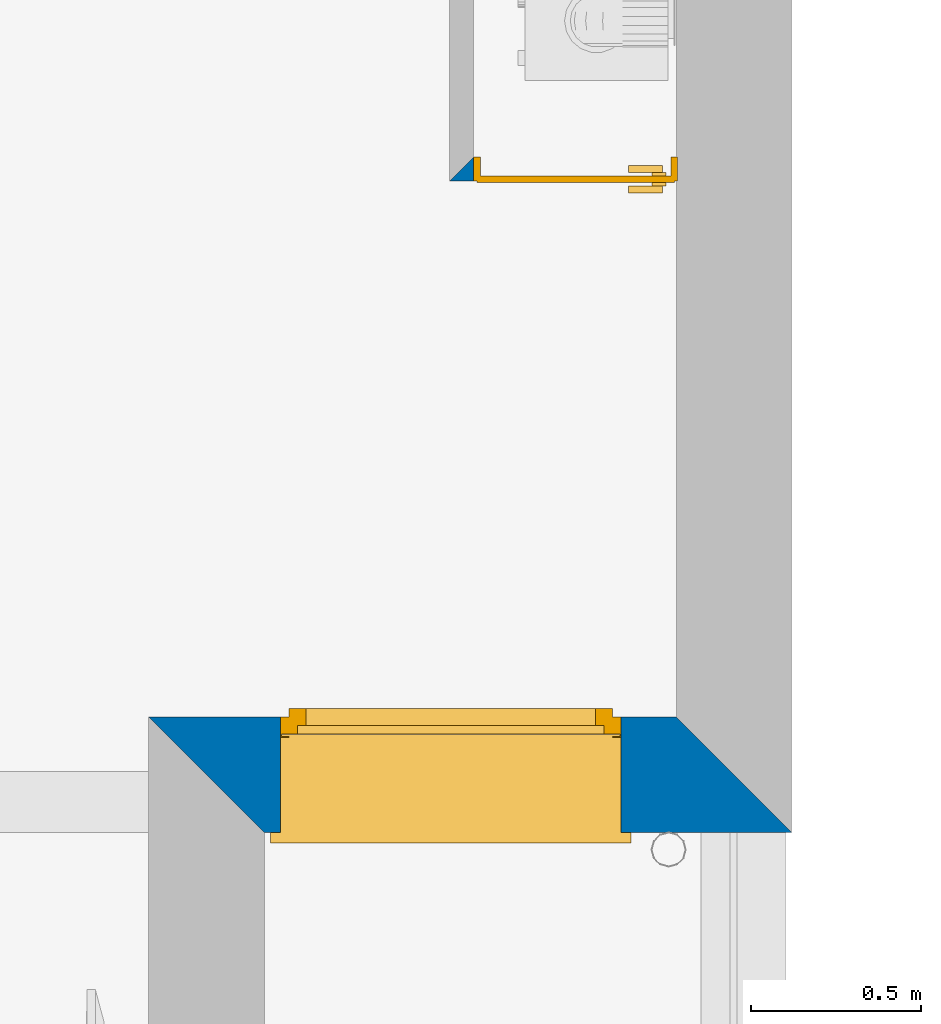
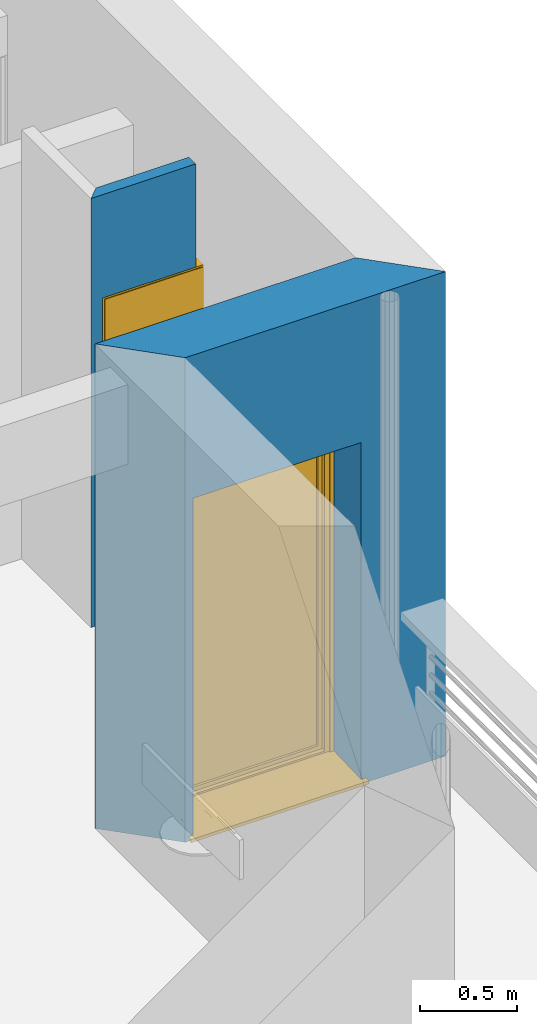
# One storey, part 16 of 165: 2 walls, 1 door, 1 window, 2 openings.
"""IFC2X3 building model written with IfcOpenShell, lengths in millimetres."""

import ifcopenshell
import ifcopenshell.guid

model = None  # the IFC model being written
_history = None  # IfcOwnerHistory: only IFC2X3 demands one
_inside = {}  # id of a spatial element -> (the spatial element, [elements in it])
_under = {}  # id of a project, library or spatial element -> (it, [spatial elements below it])
_declared = {}  # id of a project -> (the project, [libraries it declares])
_typed = {}  # id of a type object -> (the type object, [elements of that type])
_made_of = {}  # id of a material, layer set ... -> (it, [elements and type objects made of it])


def new_model(schema):
    """Start an empty IFC model of exactly this schema.

    Asked for "IFC4X3", IfcOpenShell would pick the latest addendum, in which some entities
    have other attributes; the version numbers below select the first issue.
    IFC2X3 requires an IfcOwnerHistory on every rooted entity: one is made here for all.
    """
    global model, _history
    if schema == "IFC4X3":
        model = ifcopenshell.file(schema_version=(4, 3, 0, 0))
    else:
        model = ifcopenshell.file(schema=schema)
    _inside.clear()
    _under.clear()
    _declared.clear()
    _typed.clear()
    _made_of.clear()
    _history = None
    if model.schema == "IFC2X3":
        org = make("IfcOrganization", Name="unknown")
        user = make(
            "IfcPersonAndOrganization",
            ThePerson=make("IfcPerson", FamilyName="unknown"),
            TheOrganization=org,
        )
        app = make(
            "IfcApplication",
            ApplicationDeveloper=org,
            Version="unknown",
            ApplicationFullName="unknown",
            ApplicationIdentifier="unknown",
        )
        _history = make(
            "IfcOwnerHistory",
            OwningUser=user,
            OwningApplication=app,
            ChangeAction="ADDED",
            CreationDate=0,
        )
    return model


def make(cls, **values):
    """One entity of the class cls with the attributes given. An attribute that is None is left unset."""
    return model.create_entity(
        cls, **{name: value for name, value in values.items() if value is not None}
    )


def entity(cls, *values):
    """Any entity or typed value of the class cls, its attributes in the order of the schema. None: left unset."""
    e = model.create_entity(cls)
    for i, value in enumerate(values):
        if value is not None:
            e[i] = value
    return e


def rooted(cls, **values):
    """An entity with a GlobalId (a new one), such as an element, a storey or a relation."""
    return make(cls, GlobalId=ifcopenshell.guid.new(), OwnerHistory=_history, **values)


def si_unit(unit_type, name, prefix=None):
    """IfcSIUnit, for example si_unit("LENGTHUNIT", "METRE", prefix="MILLI")."""
    return make("IfcSIUnit", UnitType=unit_type, Prefix=prefix, Name=name)


def converted_unit(unit_type, name, factor, base, dimensions=None, offset=None):
    """IfcConversionBasedUnit, such as the inch: factor (a typed value) times the base unit."""
    return make(
        "IfcConversionBasedUnit"
        if offset is None
        else "IfcConversionBasedUnitWithOffset",
        ConversionOffset=offset,
        Dimensions=None
        if dimensions is None
        else entity("IfcDimensionalExponents", *dimensions),
        UnitType=unit_type,
        Name=name,
        ConversionFactor=make(
            "IfcMeasureWithUnit", ValueComponent=factor, UnitComponent=base
        ),
    )


def derived_unit(unit_type, elements):
    """IfcDerivedUnit: a product of units, each with its exponent."""
    return make(
        "IfcDerivedUnit",
        Elements=[
            make("IfcDerivedUnitElement", Unit=unit, Exponent=power)
            for unit, power in elements
        ],
        UnitType=unit_type,
    )


def money_unit(currency):
    """IfcMonetaryUnit."""
    return make("IfcMonetaryUnit", Currency=currency)


def assignment(units):
    """IfcUnitAssignment: the units of a project."""
    return None if units is None else make("IfcUnitAssignment", Units=units)


def point(xyz):
    """IfcCartesianPoint."""
    return None if xyz is None else make("IfcCartesianPoint", Coordinates=xyz)


def direction(xyz):
    """IfcDirection."""
    return None if xyz is None else make("IfcDirection", DirectionRatios=xyz)


def frame(location, z_axis=None, x_axis=None):
    """IfcAxis2Placement3D, a coordinate frame: its origin and axes. An axis left out is left unset."""
    return make(
        "IfcAxis2Placement3D",
        Location=point(location),
        Axis=direction(z_axis),
        RefDirection=direction(x_axis),
    )


def frame_2d(location, x_axis=None):
    """IfcAxis2Placement2D, a coordinate frame in the plane: its origin and x axis."""
    return make(
        "IfcAxis2Placement2D", Location=point(location), RefDirection=direction(x_axis)
    )


def origin_with_axes():
    """The frame at (0, 0, 0) with the z axis (0, 0, 1) and the x axis (1, 0, 0) written out."""
    return frame((0.0, 0.0, 0.0), z_axis=(0.0, 0.0, 1.0), x_axis=(1.0, 0.0, 0.0))


def origin_2d_with_axis():
    """The frame at (0, 0) in the plane with the x axis (1, 0) written out."""
    return frame_2d((0.0, 0.0), x_axis=(1.0, 0.0))


def place(relative_to, where):
    """IfcLocalPlacement: puts the frame where relative to a parent placement (None: the world)."""
    return make(
        "IfcLocalPlacement", PlacementRelTo=relative_to, RelativePlacement=where
    )


def context(
    kind, dimensions, precision=None, world=None, true_north=None, identifier=None
):
    """IfcGeometricRepresentationContext, for example the 3D "Model" context."""
    return make(
        "IfcGeometricRepresentationContext",
        ContextIdentifier=identifier,
        ContextType=kind,
        CoordinateSpaceDimension=dimensions,
        Precision=precision,
        WorldCoordinateSystem=world,
        TrueNorth=true_north,
    )


def subcontext(parent, identifier, kind, view, scale=None):
    """IfcGeometricRepresentationSubContext, for example "Body" below "Model"."""
    return make(
        "IfcGeometricRepresentationSubContext",
        ContextIdentifier=identifier,
        ContextType=kind,
        ParentContext=parent,
        TargetScale=scale,
        TargetView=view,
    )


def project(units=None, contexts=None):
    """IfcProject with its units and contexts."""
    return rooted(
        "IfcProject",
        Name="project",
        RepresentationContexts=contexts,
        UnitsInContext=assignment(units),
    )


def spatial(cls, under=None, at=None, **own):
    """A site, building, storey or space (cls), placed at a placement, below another one or the project."""
    s = rooted(cls, ObjectPlacement=at, **own)
    if under is not None:
        _under.setdefault(under.id(), (under, []))[1].append(s)
    return s


def polyline(points):
    """IfcPolyline through the points."""
    return make("IfcPolyline", Points=[point(p) for p in points])


def profile(cls, at=None, kind="AREA", **sizes):
    """A parametric profile (cls). Its sizes go by their IFC names, for example OverallWidth=200.0."""
    return make(cls, ProfileType=kind, Position=at, **sizes)


def rectangle(**sizes):
    """IfcRectangleProfileDef."""
    return profile("IfcRectangleProfileDef", **sizes)


def outline(outer, holes=None, kind="AREA"):
    """IfcArbitraryClosedProfileDef: a profile drawn as a closed curve; with holes, ...WithVoids."""
    if holes is None:
        return make("IfcArbitraryClosedProfileDef", ProfileType=kind, OuterCurve=outer)
    return make(
        "IfcArbitraryProfileDefWithVoids",
        ProfileType=kind,
        OuterCurve=outer,
        InnerCurves=holes,
    )


def extrude(swept, where, along, depth):
    """IfcExtrudedAreaSolid: the profile swept, set in the frame where, extruded along a direction by depth."""
    return make(
        "IfcExtrudedAreaSolid",
        SweptArea=swept,
        Position=where,
        ExtrudedDirection=direction(along),
        Depth=depth,
    )


def faces_of(points, faces, orient=None, outer=None):
    """IfcFace entities. A face is a list of loops; a loop is a list of indices into points, from 0.

    orient and outer hold one flag for each loop. By default every Orientation is true, the
    first loop of a face is its IfcFaceOuterBound and the others are IfcFaceBound.
    """
    made = []
    for i, loops in enumerate(faces):
        bounds = []
        for j, loop in enumerate(loops):
            is_outer = j == 0 if outer is None else outer[i][j]
            bounds.append(
                make(
                    "IfcFaceOuterBound" if is_outer else "IfcFaceBound",
                    Bound=make("IfcPolyLoop", Polygon=[points[k] for k in loop]),
                    Orientation=True if orient is None else orient[i][j],
                )
            )
        made.append(make("IfcFace", Bounds=bounds))
    return made


def open_shell(faces, orient=None, outer=None):
    """The faces of one IfcOpenShell. surface_model builds it on its shared points."""
    return ("IfcOpenShell", faces, orient, outer)


def faceted_brep(points, faces, orient=None, outer=None, voids=None):
    """IfcFacetedBrep: a solid bounded by flat faces; with voids (closed shells), ...WithVoids."""
    shared = [point(p) for p in points]
    hull = make("IfcClosedShell", CfsFaces=faces_of(shared, faces, orient, outer))
    if voids is None:
        return make("IfcFacetedBrep", Outer=hull)
    return make(
        "IfcFacetedBrepWithVoids",
        Outer=hull,
        Voids=[
            make(cls, CfsFaces=faces_of(shared, fs, o, b)) for cls, fs, o, b in voids
        ],
    )


def surface_model(cls, points, shells):
    """IfcFaceBasedSurfaceModel or IfcShellBasedSurfaceModel (cls): surfaces that need not close."""
    shared = [point(p) for p in points]
    made = [make(c, CfsFaces=faces_of(shared, fs, o, b)) for c, fs, o, b in shells]
    if cls == "IfcFaceBasedSurfaceModel":
        return make(cls, FbsmFaces=made)
    return make(cls, SbsmBoundary=made)


def shape(context_of_items, identifier, shape_type, items):
    """IfcShapeRepresentation: the items that make up one representation, for example the "Body"."""
    return make(
        "IfcShapeRepresentation",
        ContextOfItems=context_of_items,
        RepresentationIdentifier=identifier,
        RepresentationType=shape_type,
        Items=items,
    )


def source(mapping_origin, context_of_items, identifier, shape_type, items):
    """IfcRepresentationMap: a shape defined once, which mapped items show again and again."""
    return make(
        "IfcRepresentationMap",
        MappingOrigin=mapping_origin,
        MappedRepresentation=shape(context_of_items, identifier, shape_type, items),
    )


def transform(
    local_origin,
    x_axis=None,
    y_axis=None,
    z_axis=None,
    scale=None,
    scale2=None,
    scale3=None,
    uniform=True,
):
    """IfcCartesianTransformationOperator3D, or its non-uniform kind. x_axis, y_axis, z_axis: its Axis1, 2, 3."""
    if uniform:
        return make(
            "IfcCartesianTransformationOperator3D",
            Axis1=direction(x_axis),
            Axis2=direction(y_axis),
            LocalOrigin=point(local_origin),
            Scale=scale,
            Axis3=direction(z_axis),
        )
    return make(
        "IfcCartesianTransformationOperator3DnonUniform",
        Axis1=direction(x_axis),
        Axis2=direction(y_axis),
        LocalOrigin=point(local_origin),
        Scale=scale,
        Axis3=direction(z_axis),
        Scale2=scale2,
        Scale3=scale3,
    )


def mapped(mapping_source, mapping_target):
    """IfcMappedItem: shows the shape of a source again, moved by a transform."""
    return make(
        "IfcMappedItem", MappingSource=mapping_source, MappingTarget=mapping_target
    )


def material(Name=None, Category=None):
    """IfcMaterial."""
    return make("IfcMaterial", Name=Name, Category=Category)


def layer(
    of_material, thickness, ventilated=None, Name=None, Category=None, Priority=None
):
    """IfcMaterialLayer: one layer of a wall or slab, of a material (None: an air gap)."""
    return make(
        "IfcMaterialLayer",
        Material=of_material,
        LayerThickness=thickness,
        IsVentilated=ventilated,
        Name=Name,
        Category=Category,
        Priority=Priority,
    )


def layer_set(layers, Name=None):
    """IfcMaterialLayerSet."""
    return make("IfcMaterialLayerSet", MaterialLayers=layers, LayerSetName=Name)


def layer_usage(for_layer_set, set_direction, sense, offset, extent=None):
    """IfcMaterialLayerSetUsage: how a layer set lies in its element."""
    return make(
        "IfcMaterialLayerSetUsage",
        ForLayerSet=for_layer_set,
        LayerSetDirection=set_direction,
        DirectionSense=sense,
        OffsetFromReferenceLine=offset,
        ReferenceExtent=extent,
    )


def made_of(thing, what):
    """Note that an element or type object is made of a material, layer set ...; save() writes the relation."""
    if what is not None:
        _made_of.setdefault(what.id(), (what, []))[1].append(thing)
    return thing


def type_object(cls, material=None, **own):
    """A type object (cls), such as IfcWallType, which elements share."""
    return made_of(rooted(cls, **own), material)


def element(
    cls,
    number,
    at=None,
    inside=None,
    cuts=None,
    type_object=None,
    material=None,
    context=None,
    identifier="Body",
    shape_type=None,
    held_by="IfcProductDefinitionShape",
    body=None,
    shapes=None,
    **own,
):
    """One element of the class cls, such as IfcWall. Its Tag is "e" and its number.

    at: its placement. inside: the storey or other place that contains it. cuts: it is an
    opening in that element (IfcRelVoidsElement). A single representation is given by context,
    identifier, shape_type and body (its items); several are given by shapes. held_by: the class
    of the entity that holds the representations. save() writes the other relations.
    """
    e = rooted(cls, Tag="e%d" % number, ObjectPlacement=at, **own)
    if body is not None:
        shapes = [shape(context, identifier, shape_type, body)]
    if shapes is not None:
        e.Representation = make(held_by, Representations=shapes)
    if inside is not None:
        _inside.setdefault(inside.id(), (inside, []))[1].append(e)
    if cuts is not None:
        rooted(
            "IfcRelVoidsElement", RelatingBuildingElement=cuts, RelatedOpeningElement=e
        )
    if type_object is not None:
        _typed.setdefault(type_object.id(), (type_object, []))[1].append(e)
    return made_of(e, material)


def fill(opening, filler):
    """IfcRelFillsElement: the door or window that sits in an opening."""
    return rooted(
        "IfcRelFillsElement",
        RelatingOpeningElement=opening,
        RelatedBuildingElement=filler,
    )


def aggregate(whole, parts):
    """IfcRelAggregates: a whole, such as a stair, and the parts it consists of."""
    return rooted("IfcRelAggregates", RelatingObject=whole, RelatedObjects=parts)


def save(model, path):
    """Write the relations noted so far, then the file.

    IfcRelAggregates (storeys below a building ...), IfcRelContainedInSpatialStructure (elements
    in a storey), IfcRelDefinesByType, IfcRelAssociatesMaterial and IfcRelDeclares: one each for
    every whole, place, type object, material and project.
    """
    for whole, parts in _under.values():
        aggregate(whole, parts)
    for where, things in _inside.values():
        rooted(
            "IfcRelContainedInSpatialStructure",
            RelatedElements=things,
            RelatingStructure=where,
        )
    for kind, things in _typed.values():
        rooted("IfcRelDefinesByType", RelatedObjects=things, RelatingType=kind)
    for what, things in _made_of.values():
        rooted("IfcRelAssociatesMaterial", RelatedObjects=things, RelatingMaterial=what)
    for by, libraries in _declared.values():
        rooted("IfcRelDeclares", RelatingContext=by, RelatedDefinitions=libraries)
    model.write(path)


model = new_model("IFC2X3")

# Units and contexts
model_context = context("Model", 3, precision=0.01, world=origin_with_axes(), true_north=direction((0.0, 1.0)))
body_context = subcontext(model_context, "Body", "Model", "MODEL_VIEW")
ifc_project = project(units=[si_unit("LENGTHUNIT", "METRE", prefix="MILLI"), si_unit("AREAUNIT", "SQUARE_METRE"), si_unit("VOLUMEUNIT", "CUBIC_METRE"), converted_unit("PLANEANGLEUNIT", "DEGREE", entity("IfcPlaneAngleMeasure", 0.0174532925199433), si_unit("PLANEANGLEUNIT", "RADIAN"), dimensions=[0, 0, 0, 0, 0, 0, 0]), money_unit("USD"), converted_unit("TIMEUNIT", "Year", entity("IfcTimeMeasure", 31557600.0), si_unit("TIMEUNIT", "SECOND"), dimensions=[0, 0, 1, 0, 0, 0, 0]), si_unit("MASSUNIT", "GRAM", prefix="KILO"), si_unit("THERMODYNAMICTEMPERATUREUNIT", "DEGREE_CELSIUS"), si_unit("LUMINOUSINTENSITYUNIT", "LUMEN"), si_unit("ENERGYUNIT", "JOULE", prefix="MEGA"), derived_unit("THERMALCONDUCTANCEUNIT", [(si_unit("POWERUNIT", "WATT"), 1), (si_unit("LENGTHUNIT", "METRE"), -1), (si_unit("THERMODYNAMICTEMPERATUREUNIT", "KELVIN"), -1)]), derived_unit("SPECIFICHEATCAPACITYUNIT", [(si_unit("ENERGYUNIT", "JOULE"), 1), (si_unit("MASSUNIT", "GRAM", prefix="KILO"), -1), (si_unit("THERMODYNAMICTEMPERATUREUNIT", "KELVIN"), -1)]), derived_unit("MASSDENSITYUNIT", [(si_unit("MASSUNIT", "GRAM", prefix="KILO"), 1), (si_unit("VOLUMEUNIT", "CUBIC_METRE"), -1)])], contexts=[model_context])

# Site, building, storey
site_placement = place(None, origin_with_axes())
site = spatial("IfcSite", under=ifc_project, at=site_placement, Name="Site", CompositionType="ELEMENT")
building_placement = place(site_placement, origin_with_axes())
building = spatial("IfcBuilding", under=site, at=building_placement, Name="Bâtiment", CompositionType="ELEMENT")
storey_placement = place(building_placement, frame((0.0, 0.0, 8500.0), z_axis=(0.0, 0.0, 1.0), x_axis=(1.0, 0.0, 0.0)))
storey = spatial("IfcBuildingStorey", under=building, at=storey_placement, Name="Etage 2", CompositionType="ELEMENT", Elevation=8500.0)

# Wall, opening, door
ifc_material_1 = material(Name="Hachure solide 268963992")
ifc_layer_1 = layer(ifc_material_1, 70.0, ventilated="UNKNOWN")
ifc_layer_set_1 = layer_set([ifc_layer_1], Name="Cloison 70 0826278243")
ifc_layer_usage_1 = layer_usage(ifc_layer_set_1, "AXIS2", "NEGATIVE", 70.0)
wall_type_1 = type_object("IfcWallType", Name="Cloison 70 0826278243 70", PredefinedType="NOTDEFINED")
wall_1_placement = place(storey_placement, frame((2233350.851378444, -653126.9364621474, 0.0), z_axis=(0.0, 0.0, 1.0), x_axis=(1.0, 0.0, 0.0)))
wall_1 = element("IfcWallStandardCase", 1, at=wall_1_placement, inside=storey, type_object=wall_type_1, material=ifc_layer_usage_1, Name="Mur-149", context=body_context, shape_type="SweptSolid", body=[
    extrude(outline(polyline([(0.0, 0.0), (624.439567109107, 0.0), (624.439567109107, 69.99999999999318), (70.00000000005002, 69.99999999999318), (0.0, 0.0)])), origin_with_axes(), (0.0, 0.0, 1.0), 2700.0),
])
opening_1_placement = place(wall_1_placement, frame((370.0000000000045, 0.0, 0.0), z_axis=(0.0, 0.0, 1.0), x_axis=(1.0, 0.0, 0.0)))
opening_1 = element("IfcOpeningElement", 2, at=opening_1_placement, cuts=wall_1, Name="Por-274", context=body_context, shape_type="SweptSolid", body=[
    extrude(rectangle(XDim=600.0000000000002, YDim=2050.000000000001, at=origin_2d_with_axis()), frame((0.0, 69.99999999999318, 1025.0), z_axis=(0.0, -1.0, 0.0), x_axis=(-1.0, 0.0, 0.0)), (0.0, 0.0, 1.0), 140.0),
])
door_style = type_object("IfcDoorStyle", Name="Porte_1v", ConstructionType="NOTDEFINED", OperationType="NOTDEFINED", ParameterTakesPrecedence=False, Sizeable=False)
shared_shape_1 = source(origin_with_axes(), body_context, "Body", "Brep", [
    faceted_brep([(300.0, 0.0, 0.0), (290.0, 0.0, 0.0), (290.0, 0.0, 2040.0), (-290.0, 0.0, 2040.0), (-290.0, 0.0, 0.0), (-300.0, 0.0, 0.0), (-300.0, 0.0, 2050.0), (300.0, 0.0, 2050.0), (300.0, -70.0, 0.0), (279.9999999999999, -70.0, 0.0), (279.9999999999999, -15.0, 0.0), (290.0, -15.0, 0.0), (290.0, -15.0, 2040.0), (-290.0, -15.0, 2040.0), (-290.0, -15.0, 0.0), (-279.9999999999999, -15.0, 0.0), (-279.9999999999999, -70.0, 0.0), (-300.0, -70.0, 0.0), (-300.0, -70.0, 2050.0), (300.0, -70.0, 2050.0), (-279.9999999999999, -70.0, 2030.0), (279.9999999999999, -70.0, 2030.0), (279.9999999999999, -15.0, 2030.0), (-279.9999999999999, -15.0, 2030.0)], [[[0, 1, 2, 3, 4, 5, 6, 7]], [[0, 8, 9, 10, 11, 1]], [[1, 11, 12, 2]], [[2, 12, 13, 3]], [[3, 13, 14, 4]], [[5, 4, 14, 15, 16, 17]], [[18, 6, 5, 17]], [[19, 7, 6, 18]], [[8, 0, 7, 19]], [[9, 8, 19, 18, 17, 16, 20, 21]], [[10, 9, 21, 22]], [[11, 10, 22, 23, 15, 14, 13, 12]], [[23, 20, 16, 15]], [[22, 21, 20, 23]]]),
    faceted_brep([(-224.9999999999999, -15.0, 900.0), (-264.9999999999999, -15.0, 900.0), (-264.9999999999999, -15.0, 1100.0), (-224.9999999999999, -15.0, 1100.0), (-224.9999999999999, -25.0, 900.0), (-264.9999999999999, -25.0, 900.0), (-264.9999999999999, -25.0, 1100.0), (-224.9999999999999, -25.0, 1100.0)], [[[0, 1, 2, 3]], [[1, 0, 4, 5]], [[2, 1, 5, 6]], [[3, 2, 6, 7]], [[0, 3, 7, 4]], [[5, 4, 7, 6]]]),
    faceted_brep([(-154.9999999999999, -25.0, 1000.0), (-254.9999999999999, -25.0, 1000.0), (-254.9999999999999, -25.0, 1020.0), (-154.9999999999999, -25.0, 1020.0), (-154.9999999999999, -45.0, 1000.0), (-254.9999999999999, -45.0, 1000.0), (-254.9999999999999, -45.0, 1020.0), (-154.9999999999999, -45.0, 1020.0)], [[[0, 1, 2, 3]], [[1, 0, 4, 5]], [[2, 1, 5, 6]], [[3, 2, 6, 7]], [[0, 3, 7, 4]], [[5, 4, 7, 6]]]),
    faceted_brep([(-224.9999999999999, 15.0, 900.0), (-264.9999999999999, 15.0, 900.0), (-264.9999999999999, 15.0, 1100.0), (-224.9999999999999, 15.0, 1100.0), (-224.9999999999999, 5.000000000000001, 900.0), (-264.9999999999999, 5.000000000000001, 900.0), (-264.9999999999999, 5.000000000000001, 1100.0), (-224.9999999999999, 5.000000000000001, 1100.0)], [[[0, 1, 2, 3]], [[1, 0, 4, 5]], [[2, 1, 5, 6]], [[3, 2, 6, 7]], [[0, 3, 7, 4]], [[5, 4, 7, 6]]]),
    faceted_brep([(-154.9999999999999, 35.0, 1000.0), (-254.9999999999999, 35.0, 1000.0), (-254.9999999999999, 35.0, 1020.0), (-154.9999999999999, 35.0, 1020.0), (-154.9999999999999, 15.0, 1000.0), (-254.9999999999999, 15.0, 1000.0), (-254.9999999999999, 15.0, 1020.0), (-154.9999999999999, 15.0, 1020.0)], [[[0, 1, 2, 3]], [[1, 0, 4, 5]], [[2, 1, 5, 6]], [[3, 2, 6, 7]], [[0, 3, 7, 4]], [[5, 4, 7, 6]]]),
    faceted_brep([(-290.0, 5.000000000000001, 0.0), (290.0, 5.000000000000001, 0.0), (290.0, -15.0, 0.0), (-290.0, -15.0, 0.0), (-290.0, 5.000000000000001, 2040.0), (290.0, 5.000000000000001, 2040.0), (290.0, -15.0, 2040.0), (-290.0, -15.0, 2040.0)], [[[0, 1, 2, 3]], [[0, 4, 5, 1]], [[1, 5, 6, 2]], [[3, 2, 6, 7]], [[4, 0, 3, 7]], [[5, 4, 7, 6]]]),
])
door_placement = place(opening_1_placement, frame((290.0000000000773, 0.0, 0.0), z_axis=(0.0, 0.0, 1.0), x_axis=(-1.0, 0.0, 0.0)))
door = element("IfcDoor", 3, at=door_placement, inside=storey, type_object=door_style, Name="Por-274", OverallHeight=2040.0, OverallWidth=580.0, context=body_context, shape_type="MappedRepresentation", body=[
    mapped(shared_shape_1, transform((289.9999999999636, 0.0, 0.0))),
])
fill(opening_1, door)

# Wall, opening, window
ifc_material_2 = material(Name="Parpaing 312445824")
ifc_layer_2 = layer(ifc_material_2, 180.0, ventilated="UNKNOWN")
ifc_material_3 = material(Name="Isolant styromousse 301821074")
ifc_layer_3 = layer(ifc_material_3, 160.0, ventilated="UNKNOWN")
ifc_layer_set_2 = layer_set([ifc_layer_2, ifc_layer_3], Name="isol int 18+16 0018356637")
ifc_layer_usage_2 = layer_usage(ifc_layer_set_2, "AXIS2", "POSITIVE", 0.0)
wall_type_2 = type_object("IfcWallType", Name="isol int 18+16 0018356637 340", PredefinedType="NOTDEFINED")
wall_2_placement = place(storey_placement, frame((2232806.658098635, -655041.4677782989, 0.0), z_axis=(0.0, 0.0, 1.0), x_axis=(1.0, 0.0, 0.0)))
wall_2 = element("IfcWallStandardCase", 4, at=wall_2_placement, inside=storey, type_object=wall_type_2, material=ifc_layer_usage_2, Name="Mur-144", context=body_context, shape_type="SweptSolid", body=[
    extrude(outline(polyline([(0.0, 0.0), (1550.013198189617, 0.0), (1210.013198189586, 339.9999999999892), (-340.0000000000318, 339.9999999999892), (0.0, 0.0)])), origin_with_axes(), (0.0, 0.0, 1.0), 3050.0),
])
opening_2_placement = place(wall_2_placement, frame((547.3422004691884, 0.0, 0.0), z_axis=(0.0, 0.0, 1.0), x_axis=(1.0, 0.0, 0.0)))
opening_2 = element("IfcOpeningElement", 5, at=opening_2_placement, cuts=wall_2, Name="Fen-134", context=body_context, shape_type="Brep", body=[
    faceted_brep([(-500.0, 341.000000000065, 2150.0), (500.0, 341.0000000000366, 2150.0), (500.0, 341.0000000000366, 0.0), (-500.0, 341.000000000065, 0.0), (-500.0, 530.0000000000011, 2150.0), (500.0, 529.9999999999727, 2150.0), (500.0, 289.9999999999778, 2150.0), (500.0, 289.9999999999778, 0.0), (500.0, -1.000000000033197, 0.0), (-500.0, -1.000000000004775, 0.0), (-500.0, 290.0000000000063, 0.0), (-500.0, 290.0000000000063, 2150.0), (-500.0, 280.0000000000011, 2150.0), (-500.0, 280.0000000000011, 2400.0), (-500.0, 530.0000000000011, 2400.0), (500.0, 529.9999999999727, 2400.0), (500.0, 279.9999999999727, 2400.0), (500.0, 279.9999999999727, 2150.0), (500.0, -1.000000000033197, 2150.0), (-500.0, -1.000000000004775, 2150.0)], [[[0, 1, 2, 3]], [[1, 0, 4, 5]], [[1, 6, 7, 2]], [[7, 8, 9, 10, 3, 2]], [[11, 0, 3, 10]], [[0, 11, 12, 13, 14, 4]], [[15, 5, 4, 14]], [[6, 1, 5, 15, 16, 17]], [[6, 17, 18, 8, 7]], [[19, 9, 8, 18]], [[12, 11, 10, 9, 19]], [[12, 17, 16, 13]], [[16, 15, 14, 13]], [[17, 12, 19, 18]]]),
])
window_style = type_object("IfcWindowStyle", Name="Fenêtre 27", ConstructionType="NOTDEFINED", OperationType="SINGLE_PANEL", ParameterTakesPrecedence=False, Sizeable=False)
shared_shape_2 = source(origin_with_axes(), body_context, "Body", "SurfaceModel", [
    surface_model("IfcShellBasedSurfaceModel", [(500.0, -51.00000000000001, 40.00000000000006), (500.0, -51.00000000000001, 50.00000000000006), (-500.0, -51.00000000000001, 50.0), (-500.0, -51.00000000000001, 40.0), (530.0, -369.9999999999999, 28.96551724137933), (530.0, -339.9999999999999, 30.00324289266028), (500.0, -339.9999999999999, 30.00324289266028), (-500.0, -339.9999999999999, 30.00324289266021), (-530.0, -339.9999999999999, 30.00324289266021), (-530.0, -369.9999999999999, 28.96551724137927), (530.0, -369.9999999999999, 8.96551724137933), (-530.0, -369.9999999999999, 8.965517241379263), (530.0, -359.9999999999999, 18.96551724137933), (-530.0, -359.9999999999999, 18.96551724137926)], [open_shell([[[0, 1, 2, 3]], [[4, 5, 6, 0, 3, 7, 8, 9]], [[10, 4, 9, 11]], [[12, 10, 11, 13]]])]),
    faceted_brep([(-500.0, -59.99999999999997, 2400.0), (-497.0, -59.99999999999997, 2400.0), (-497.0, 190.0, 2400.0), (-500.0, 190.0, 2400.0), (-500.0, -59.99999999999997, 2150.0), (-497.0, -59.99999999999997, 2150.0), (-497.0, 190.0, 2150.0), (-500.0, 190.0, 2150.0)], [[[0, 1, 2, 3]], [[4, 5, 1, 0]], [[1, 5, 6, 2]], [[3, 2, 6, 7]], [[0, 3, 7, 4]], [[7, 6, 5, 4]]]),
    faceted_brep([(497.0, -59.99999999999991, 2400.0), (500.0, -59.99999999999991, 2400.0), (500.0, 190.0000000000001, 2400.0), (497.0, 190.0000000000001, 2400.0), (497.0, -59.99999999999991, 2150.0), (500.0, -59.99999999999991, 2150.0), (500.0, 190.0000000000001, 2150.0), (497.0, 190.0000000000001, 2150.0)], [[[0, 1, 2, 3]], [[4, 5, 1, 0]], [[1, 5, 6, 2]], [[3, 2, 6, 7]], [[0, 3, 7, 4]], [[7, 6, 5, 4]]]),
    faceted_brep([(-497.0, -60.0, 2150.0), (497.0, -59.99999999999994, 2150.0), (497.0, -59.99999999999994, 2400.0), (-497.0, -60.0, 2400.0), (-497.0, -56.99999999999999, 2150.0), (497.0, -56.99999999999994, 2150.0), (497.0, -56.99999999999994, 2397.0), (497.0, 187.0000000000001, 2397.0), (497.0, 187.0000000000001, 2153.0), (497.0, -37.99999999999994, 2153.0), (497.0, -37.99999999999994, 2150.0), (497.0, 190.0000000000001, 2150.0), (497.0, 190.0000000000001, 2400.0), (-497.0, 190.0, 2400.0), (-497.0, 190.0, 2150.0), (-497.0, -37.99999999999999, 2150.0), (-497.0, -37.99999999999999, 2153.0), (-497.0, 187.0, 2153.0), (-497.0, 187.0, 2397.0), (-497.0, -56.99999999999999, 2397.0)], [[[0, 1, 2, 3]], [[4, 5, 1, 0]], [[1, 5, 6, 7, 8, 9, 10, 11, 12, 2]], [[3, 2, 12, 13]], [[0, 3, 13, 14, 15, 16, 17, 18, 19, 4]], [[19, 6, 5, 4]], [[18, 7, 6, 19]], [[17, 8, 7, 18]], [[16, 9, 8, 17]], [[15, 10, 9, 16]], [[14, 11, 10, 15]], [[13, 12, 11, 14]]]),
    faceted_brep([(-494.0, -40.37442957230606, 2256.419644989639), (-494.0, -41.99999999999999, 2275.0), (-494.0, -40.37442957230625, 2293.580355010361), (-494.0, -35.54711042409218, 2311.596155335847), (-494.0, -27.66471820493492, 2328.5), (-494.0, -16.96675541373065, 2343.77827423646), (-494.0, -3.778274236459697, 2356.96675541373), (-494.0, 11.5, 2367.664718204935), (-494.0, 28.40384466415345, 2375.547110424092), (-494.0, 46.41964498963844, 2380.374429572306), (-494.0, 64.99999999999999, 2382.0), (-494.0, 83.58035501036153, 2380.374429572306), (-494.0, 101.5961553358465, 2375.547110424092), (-494.0, 118.5, 2367.664718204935), (-494.0, 133.7782742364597, 2356.96675541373), (-494.0, 146.9667554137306, 2343.77827423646), (-494.0, 157.6647182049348, 2328.5), (-494.0, 165.5471104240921, 2311.596155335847), (-494.0, 170.3744295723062, 2293.580355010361), (-494.0, 171.9999999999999, 2275.0), (-494.0, 170.3744295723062, 2256.419644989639), (-494.0, 165.5471104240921, 2238.403844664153), (-494.0, 157.6647182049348, 2221.5), (-494.0, 146.9667554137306, 2206.22172576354), (-494.0, 133.7782742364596, 2193.033244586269), (-494.0, 118.4999999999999, 2182.335281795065), (-494.0, 101.5961553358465, 2174.452889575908), (-494.0, 83.58035501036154, 2169.625570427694), (-494.0, 65.00000000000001, 2168.0), (-494.0, 46.4196449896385, 2169.625570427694), (-494.0, 28.40384466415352, 2174.452889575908), (-494.0, 11.50000000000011, 2182.335281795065), (-494.0, -3.778274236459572, 2193.033244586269), (-494.0, -16.9667554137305, 2206.22172576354), (-494.0, -27.66471820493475, 2221.5), (-494.0, -35.54711042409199, 2238.403844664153), (494.0, -40.374429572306, 2256.419644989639), (494.0, -41.99999999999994, 2275.0), (494.0, -40.37442957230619, 2293.580355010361), (494.0, -35.54711042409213, 2311.596155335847), (494.0, -27.66471820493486, 2328.5), (494.0, -16.96675541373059, 2343.77827423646), (494.0, -3.778274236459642, 2356.96675541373), (494.0, 11.50000000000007, 2367.664718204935), (494.0, 28.40384466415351, 2375.547110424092), (494.0, 46.41964498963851, 2380.374429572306), (494.0, 65.00000000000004, 2382.0), (494.0, 83.58035501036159, 2380.374429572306), (494.0, 101.5961553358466, 2375.547110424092), (494.0, 118.5, 2367.664718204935), (494.0, 133.7782742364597, 2356.96675541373), (494.0, 146.9667554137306, 2343.77827423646), (494.0, 157.6647182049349, 2328.5), (494.0, 165.5471104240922, 2311.596155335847), (494.0, 170.3744295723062, 2293.580355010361), (494.0, 172.0, 2275.0), (494.0, 170.3744295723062, 2256.419644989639), (494.0, 165.5471104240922, 2238.403844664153), (494.0, 157.6647182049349, 2221.5), (494.0, 146.9667554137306, 2206.22172576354), (494.0, 133.7782742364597, 2193.033244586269), (494.0, 118.5, 2182.335281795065), (494.0, 101.5961553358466, 2174.452889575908), (494.0, 83.5803550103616, 2169.625570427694), (494.0, 65.00000000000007, 2168.0), (494.0, 46.41964498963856, 2169.625570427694), (494.0, 28.40384466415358, 2174.452889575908), (494.0, 11.50000000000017, 2182.335281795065), (494.0, -3.778274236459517, 2193.033244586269), (494.0, -16.96675541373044, 2206.22172576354), (494.0, -27.6647182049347, 2221.5), (494.0, -35.54711042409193, 2238.403844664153)], [[[0, 1, 2, 3, 4, 5, 6, 7, 8, 9, 10, 11, 12, 13, 14, 15, 16, 17, 18, 19, 20, 21, 22, 23, 24, 25, 26, 27, 28, 29, 30, 31, 32, 33, 34, 35]], [[0, 36, 37, 1]], [[1, 37, 38, 2]], [[2, 38, 39, 3]], [[3, 39, 40, 4]], [[4, 40, 41, 5]], [[5, 41, 42, 6]], [[6, 42, 43, 7]], [[7, 43, 44, 8]], [[8, 44, 45, 9]], [[9, 45, 46, 10]], [[10, 46, 47, 11]], [[11, 47, 48, 12]], [[12, 48, 49, 13]], [[13, 49, 50, 14]], [[14, 50, 51, 15]], [[15, 51, 52, 16]], [[16, 52, 53, 17]], [[17, 53, 54, 18]], [[18, 54, 55, 19]], [[19, 55, 56, 20]], [[20, 56, 57, 21]], [[21, 57, 58, 22]], [[22, 58, 59, 23]], [[23, 59, 60, 24]], [[24, 60, 61, 25]], [[25, 61, 62, 26]], [[26, 62, 63, 27]], [[27, 63, 64, 28]], [[28, 64, 65, 29]], [[29, 65, 66, 30]], [[30, 66, 67, 31]], [[31, 67, 68, 32]], [[32, 68, 69, 33]], [[33, 69, 70, 34]], [[34, 70, 71, 35]], [[35, 71, 36, 0]], [[36, 71, 70, 69, 68, 67, 66, 65, 64, 63, 62, 61, 60, 59, 58, 57, 56, 55, 54, 53, 52, 51, 50, 49, 48, 47, 46, 45, 44, 43, 42, 41, 40, 39, 38, 37]]]),
    faceted_brep([(500.0, -34.99999999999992, 30.0), (500.0, -34.99999999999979, 2150.0), (500.0, -59.99999999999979, 2150.0), (500.0, -59.99999999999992, 30.0), (475.0, -34.99999999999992, 30.0), (475.0, -34.99999999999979, 2150.0), (475.0, -37.99999999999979, 2150.0), (497.0, -37.99999999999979, 2150.0), (497.0, -56.99999999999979, 2150.0), (475.0, -56.99999999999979, 2150.0), (475.0, -59.99999999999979, 2150.0), (475.0, -59.99999999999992, 30.0), (475.0, -56.99999999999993, 30.0), (497.0, -56.99999999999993, 30.0), (497.0, -37.99999999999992, 30.0), (475.0, -37.99999999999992, 30.0)], [[[0, 1, 2, 3]], [[4, 5, 1, 0]], [[1, 5, 6, 7, 8, 9, 10, 2]], [[3, 2, 10, 11]], [[0, 3, 11, 12, 13, 14, 15, 4]], [[15, 6, 5, 4]], [[14, 7, 6, 15]], [[13, 8, 7, 14]], [[12, 9, 8, 13]], [[11, 10, 9, 12]]]),
    faceted_brep([(-500.0, -34.99999999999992, 30.0), (-500.0, -59.99999999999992, 30.0), (-500.0, -59.99999999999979, 2150.0), (-500.0, -34.99999999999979, 2150.0), (-475.0, -34.99999999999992, 30.0), (-475.0, -37.99999999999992, 30.0), (-497.0, -37.99999999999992, 30.0), (-497.0, -56.99999999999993, 30.0), (-475.0, -56.99999999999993, 30.0), (-475.0, -59.99999999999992, 30.0), (-475.0, -59.99999999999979, 2150.0), (-475.0, -56.99999999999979, 2150.0), (-497.0, -56.99999999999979, 2150.0), (-497.0, -37.99999999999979, 2150.0), (-475.0, -37.99999999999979, 2150.0), (-475.0, -34.99999999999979, 2150.0)], [[[0, 1, 2, 3]], [[0, 4, 5, 6, 7, 8, 9, 1]], [[1, 9, 10, 2]], [[3, 2, 10, 11, 12, 13, 14, 15]], [[4, 0, 3, 15]], [[5, 4, 15, 14]], [[6, 5, 14, 13]], [[7, 6, 13, 12]], [[8, 7, 12, 11]], [[9, 8, 11, 10]]]),
    faceted_brep([(497.0, -46.66666666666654, 2275.0), (497.0, -46.66666666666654, 2266.666666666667), (-497.0, -46.6666666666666, 2266.666666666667), (-497.0, -46.6666666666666, 2275.0), (497.0, -51.66666666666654, 2275.0), (497.0, -51.66666666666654, 2266.666666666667), (497.0, -49.99999999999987, 2250.0), (497.0, -44.99999999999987, 2250.0), (-497.0, -44.99999999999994, 2250.0), (-497.0, -49.99999999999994, 2250.0), (-497.0, -51.6666666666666, 2266.666666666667), (-497.0, -51.6666666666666, 2275.0)], [[[0, 1, 2, 3]], [[4, 5, 6, 7, 1, 0]], [[2, 1, 7, 8]], [[3, 2, 8, 9, 10, 11]], [[3, 11, 4, 0]], [[10, 5, 4, 11]], [[9, 6, 5, 10]], [[8, 7, 6, 9]]]),
    faceted_brep([(-497.0, -44.99999999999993, 2250.0), (497.0, -44.99999999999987, 2250.0), (497.0, -46.66666666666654, 2233.333333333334), (-497.0, -46.6666666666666, 2233.333333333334), (-497.0, -49.99999999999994, 2250.0), (497.0, -49.99999999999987, 2250.0), (497.0, -51.66666666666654, 2233.333333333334), (497.0, -51.66666666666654, 2216.666666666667), (497.0, -49.99999999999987, 2200.0), (497.0, -44.99999999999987, 2200.0), (497.0, -46.66666666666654, 2216.666666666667), (-497.0, -46.6666666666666, 2216.666666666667), (-497.0, -44.99999999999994, 2200.0), (-497.0, -49.99999999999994, 2200.0), (-497.0, -51.6666666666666, 2216.666666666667), (-497.0, -51.6666666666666, 2233.333333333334)], [[[0, 1, 2, 3]], [[4, 5, 1, 0]], [[1, 5, 6, 7, 8, 9, 10, 2]], [[3, 2, 10, 11]], [[0, 3, 11, 12, 13, 14, 15, 4]], [[15, 6, 5, 4]], [[14, 7, 6, 15]], [[13, 8, 7, 14]], [[12, 9, 8, 13]], [[11, 10, 9, 12]]]),
    faceted_brep([(-497.0, -44.99999999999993, 2200.0), (497.0, -44.99999999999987, 2200.0), (497.0, -46.66666666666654, 2183.333333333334), (-497.0, -46.6666666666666, 2183.333333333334), (-497.0, -49.99999999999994, 2200.0), (497.0, -49.99999999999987, 2200.0), (497.0, -51.66666666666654, 2183.333333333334), (497.0, -51.66666666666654, 2166.666666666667), (497.0, -49.99999999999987, 2150.000000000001), (497.0, -44.99999999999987, 2150.000000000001), (497.0, -46.66666666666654, 2166.666666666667), (-497.0, -46.6666666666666, 2166.666666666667), (-497.0, -44.99999999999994, 2150.000000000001), (-497.0, -49.99999999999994, 2150.000000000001), (-497.0, -51.6666666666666, 2166.666666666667), (-497.0, -51.6666666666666, 2183.333333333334)], [[[0, 1, 2, 3]], [[4, 5, 1, 0]], [[1, 5, 6, 7, 8, 9, 10, 2]], [[3, 2, 10, 11]], [[0, 3, 11, 12, 13, 14, 15, 4]], [[15, 6, 5, 4]], [[14, 7, 6, 15]], [[13, 8, 7, 14]], [[12, 9, 8, 13]], [[11, 10, 9, 12]]]),
    faceted_brep([(-475.0000000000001, 0.0, 2100.0), (-500.0, 0.0, 2100.0), (-500.0, -50.00000000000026, 2100.0), (-450.0, -50.00000000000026, 2100.0), (-450.0, -25.00000000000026, 2100.0), (-475.0000000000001, -25.00000000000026, 2100.0), (-475.0000000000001, 0.0, 50.00000000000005), (-500.0, 0.0, 50.00000000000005), (-500.0, -50.00000000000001, 50.00000000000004), (-450.0, -50.00000000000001, 50.00000000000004), (-450.0, -25.00000000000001, 50.00000000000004), (-475.0000000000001, -25.00000000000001, 50.00000000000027)], [[[0, 1, 2, 3, 4, 5]], [[6, 7, 1, 0]], [[1, 7, 8, 2]], [[2, 8, 9, 3]], [[4, 3, 9, 10]], [[10, 11, 5, 4]], [[5, 11, 6, 0]], [[11, 10, 9, 8, 7, 6]]]),
    faceted_brep([(450.0, -25.00000000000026, 2100.0), (450.0, -50.00000000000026, 2100.0), (500.0, -50.00000000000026, 2100.0), (500.0, 0.0, 2100.0), (475.0000000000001, 0.0, 2100.0), (475.0000000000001, -25.00000000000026, 2100.0), (450.0, -25.00000000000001, 50.00000000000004), (450.0, -50.00000000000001, 50.00000000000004), (500.0, -50.00000000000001, 50.00000000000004), (500.0, 0.0, 50.00000000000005), (475.0000000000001, 0.0, 50.00000000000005), (475.0000000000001, -25.00000000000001, 50.00000000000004)], [[[0, 1, 2, 3, 4, 5]], [[6, 7, 1, 0]], [[8, 2, 1, 7]], [[9, 3, 2, 8]], [[4, 3, 9, 10]], [[10, 11, 5, 4]], [[5, 11, 6, 0]], [[11, 10, 9, 8, 7, 6]]]),
    faceted_brep([(450.0, -25.00000000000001, 50.00000000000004), (450.0, -50.00000000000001, 50.00000000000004), (500.0, -50.00000000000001, 50.00000000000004), (500.0, 0.0, 50.00000000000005), (475.0000000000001, 0.0, 50.00000000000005), (475.0000000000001, -25.00000000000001, 50.00000000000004), (-450.0, -25.00000000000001, 50.00000000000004), (-450.0, -50.00000000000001, 50.00000000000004), (-500.0, -50.00000000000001, 50.00000000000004), (-500.0, -50.0, 0.0), (500.0, -50.0, 0.0), (500.0, 0.0, 0.0), (-475.0000000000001, 0.0, 24.99999999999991), (475.0000000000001, 0.0, 24.99999999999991), (-500.0, 0.0, 0.0), (-500.0, 0.0, 50.00000000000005), (-475.0000000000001, 0.0, 50.00000000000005), (475.0000000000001, -25.0, 24.99999999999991), (-475.0000000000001, -25.0, 24.99999999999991), (-475.0000000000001, -25.00000000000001, 50.00000000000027)], [[[0, 1, 2, 3, 4, 5]], [[6, 7, 1, 0]], [[8, 9, 10, 2, 1, 7]], [[11, 3, 2, 10]], [[12, 13, 4, 3, 11, 14, 15, 16]], [[13, 17, 5, 4]], [[5, 17, 18, 19, 6, 0]], [[19, 16, 15, 8, 7, 6]], [[15, 14, 9, 8]], [[14, 11, 10, 9]], [[12, 18, 17, 13]], [[19, 18, 12, 16]]]),
    faceted_brep([(-475.0000000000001, 0.0, 2100.0), (-500.0, 0.0, 2100.0), (-500.0, 0.0, 2150.0), (500.0, 0.0, 2150.0), (500.0, 0.0, 2100.0), (475.0000000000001, 0.0, 2100.0), (475.0000000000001, 0.0, 2125.0), (-475.0000000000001, 0.0, 2125.0), (-475.0000000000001, -25.00000000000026, 2100.0), (-450.0, -25.00000000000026, 2100.0), (-450.0, -50.00000000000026, 2100.0), (-500.0, -50.00000000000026, 2100.0), (-500.0, -50.00000000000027, 2150.0), (500.0, -50.00000000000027, 2150.0), (500.0, -50.00000000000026, 2100.0), (475.0000000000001, -25.00000000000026, 2100.0), (450.0, -50.00000000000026, 2100.0), (450.0, -25.00000000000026, 2100.0), (475.0000000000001, -25.00000000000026, 2125.0), (-475.0000000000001, -25.00000000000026, 2125.0)], [[[0, 1, 2, 3, 4, 5, 6, 7]], [[8, 9, 10, 11, 1, 0]], [[2, 1, 11, 12]], [[3, 2, 12, 13]], [[4, 3, 13, 14]], [[15, 5, 4, 14, 16, 17]], [[5, 15, 18, 6]], [[6, 18, 19, 7]], [[7, 19, 8, 0]], [[17, 9, 8, 19, 18, 15]], [[17, 16, 10, 9]], [[14, 13, 12, 11, 10, 16]]]),
    faceted_brep([(-425.0000000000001, -25.00000000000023, 2075.0), (-425.0000000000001, 24.99999999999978, 2075.0), (-475.0000000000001, 24.99999999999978, 2075.0), (-475.0000000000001, -25.00000000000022, 2075.0), (-425.0000000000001, -24.99999999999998, 75.00000000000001), (-425.0000000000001, 25.00000000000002, 75.00000000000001), (-475.0000000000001, 25.00000000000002, 75.00000000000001), (-475.0000000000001, -24.99999999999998, 75.00000000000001)], [[[0, 1, 2, 3]], [[4, 5, 1, 0]], [[1, 5, 6, 2]], [[3, 2, 6, 7]], [[0, 3, 7, 4]], [[7, 6, 5, 4]]]),
    faceted_brep([(425.0000000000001, -25.00000000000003, 75.00000000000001), (425.0000000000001, 24.99999999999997, 75.00000000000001), (475.0000000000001, 24.99999999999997, 75.00000000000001), (475.0000000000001, -25.00000000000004, 75.00000000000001), (425.0000000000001, -25.00000000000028, 2075.0), (425.0000000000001, 24.99999999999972, 2075.0), (475.0000000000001, 24.99999999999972, 2075.0), (475.0000000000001, -25.00000000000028, 2075.0)], [[[0, 1, 2, 3]], [[4, 5, 1, 0]], [[1, 5, 6, 2]], [[3, 2, 6, 7]], [[0, 3, 7, 4]], [[7, 6, 5, 4]]]),
    faceted_brep([(475.0000000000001, -25.00000000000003, 25.0), (475.0000000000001, 24.99999999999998, 25.00000000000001), (475.0000000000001, 24.99999999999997, 75.00000000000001), (475.0000000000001, -25.00000000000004, 75.00000000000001), (-475.0000000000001, -24.99999999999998, 25.0), (-475.0000000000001, 25.00000000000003, 25.00000000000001), (-475.0000000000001, 25.00000000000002, 75.00000000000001), (-425.0000000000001, 25.00000000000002, 75.00000000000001), (425.0000000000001, 24.99999999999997, 75.00000000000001), (425.0000000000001, -25.00000000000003, 75.00000000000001), (-425.0000000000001, -24.99999999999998, 75.00000000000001), (-475.0000000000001, -24.99999999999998, 75.00000000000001)], [[[0, 1, 2, 3]], [[4, 5, 1, 0]], [[1, 5, 6, 7, 8, 2]], [[3, 2, 8, 9]], [[0, 3, 9, 10, 11, 4]], [[11, 6, 5, 4]], [[10, 7, 6, 11]], [[9, 8, 7, 10]]]),
    faceted_brep([(-475.0000000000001, -25.00000000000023, 2125.0), (-475.0000000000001, 24.99999999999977, 2125.0), (-475.0000000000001, 24.99999999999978, 2075.0), (-475.0000000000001, -25.00000000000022, 2075.0), (475.0000000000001, -25.00000000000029, 2125.0), (475.0000000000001, 24.99999999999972, 2125.0), (475.0000000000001, 24.99999999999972, 2075.0), (425.0000000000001, 24.99999999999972, 2075.0), (-425.0000000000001, 24.99999999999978, 2075.0), (-425.0000000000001, -25.00000000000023, 2075.0), (425.0000000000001, -25.00000000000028, 2075.0), (475.0000000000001, -25.00000000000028, 2075.0)], [[[0, 1, 2, 3]], [[4, 5, 1, 0]], [[1, 5, 6, 7, 8, 2]], [[3, 2, 8, 9]], [[0, 3, 9, 10, 11, 4]], [[11, 6, 5, 4]], [[10, 7, 6, 11]], [[9, 8, 7, 10]]]),
    surface_model("IfcShellBasedSurfaceModel", [(-425.0000000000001, -10.00000000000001, 75.00000000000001), (425.0000000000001, -10.00000000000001, 75.00000000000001), (425.0000000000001, -10.00000000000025, 2075.0), (-425.0000000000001, -10.00000000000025, 2075.0)], [open_shell([[[0, 1, 2, 3]]])]),
    surface_model("IfcShellBasedSurfaceModel", [(-425.0000000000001, 9.999999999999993, 75.00000000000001), (-425.0000000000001, 9.99999999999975, 2075.0), (425.0000000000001, 9.99999999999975, 2075.0), (425.0000000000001, 9.999999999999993, 75.00000000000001)], [open_shell([[[0, 1, 2, 3]]])]),
])
window_placement = place(opening_2_placement, frame((-500.0000000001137, 0.0, 0.0), z_axis=(0.0, 0.0, 1.0), x_axis=(1.0, 0.0, 0.0)))
window = element("IfcWindow", 6, at=window_placement, inside=storey, type_object=window_style, Name="Fen-134", OverallHeight=2150.0, OverallWidth=1000.0, context=body_context, shape_type="MappedRepresentation", body=[
    mapped(shared_shape_2, transform((500.0, 339.9999999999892, 0.0))),
])
fill(opening_2, window)

save(model, "model.ifc")
